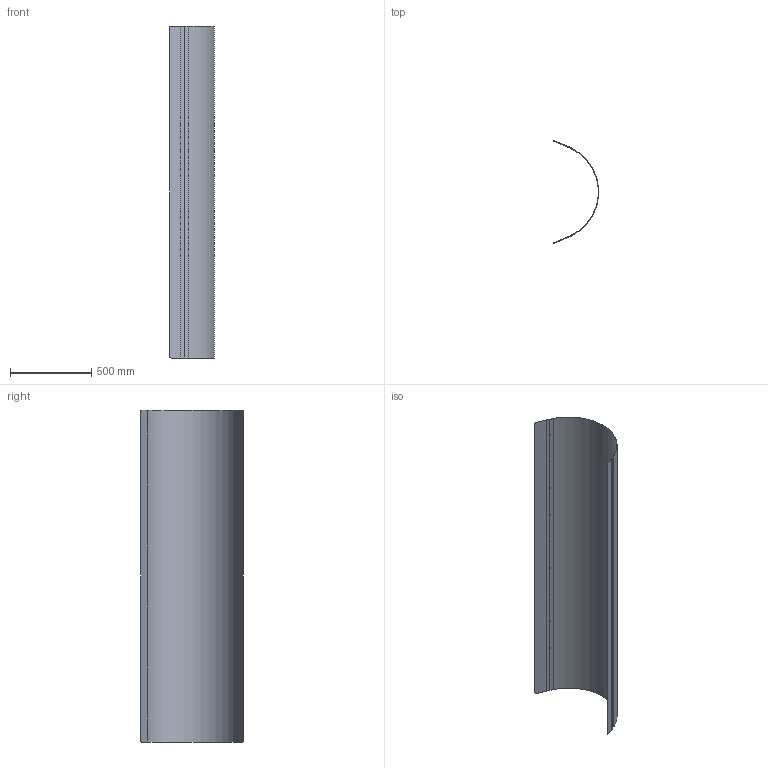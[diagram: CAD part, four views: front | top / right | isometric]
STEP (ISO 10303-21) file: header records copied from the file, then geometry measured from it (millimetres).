
FILE_DESCRIPTION(/* description */ ('(C) Elphel, Inc. 2012. Licensed under CERN OHL v.1.1 or later, see http://ohwr.org/cernohl'),/* implementation_level */ '2;1');
FILE_NAME(/* name */ '0353-25-20B',/* time_stamp */ '2012-06-08T23:58:48-06:00',/* author */ (''),/* organization */ ('Elphel, Inc'),/* preprocessor_version */ 'ST-DEVELOPER v12',/* originating_system */ 'VariCAD 2012-1.04; kernel version (20100102)',/* authorisation */ '');
FILE_SCHEMA (('AUTOMOTIVE_DESIGN'));
Length unit declared in the file: millimetre
Products named in the file (1): Part
Bounding box: 276.44 x 628.86 x 2040 mm (x, y, z)
Volume: 1559438 mm3; surface area: 3696542.4 mm2
Topology: 1 solids, 1 shells, 142 faces, 460 edges, 280 vertices
Faces by surface type: cylinder 88, cone 40, plane 14
Entity records: 5636 total; most frequent: CARTESIAN_POINT 1524, ORIENTED_EDGE 920, DIRECTION 844, EDGE_CURVE 460, AXIS2_PLACEMENT_3D 320, VERTEX_POINT 280, LINE 204, VECTOR 204
